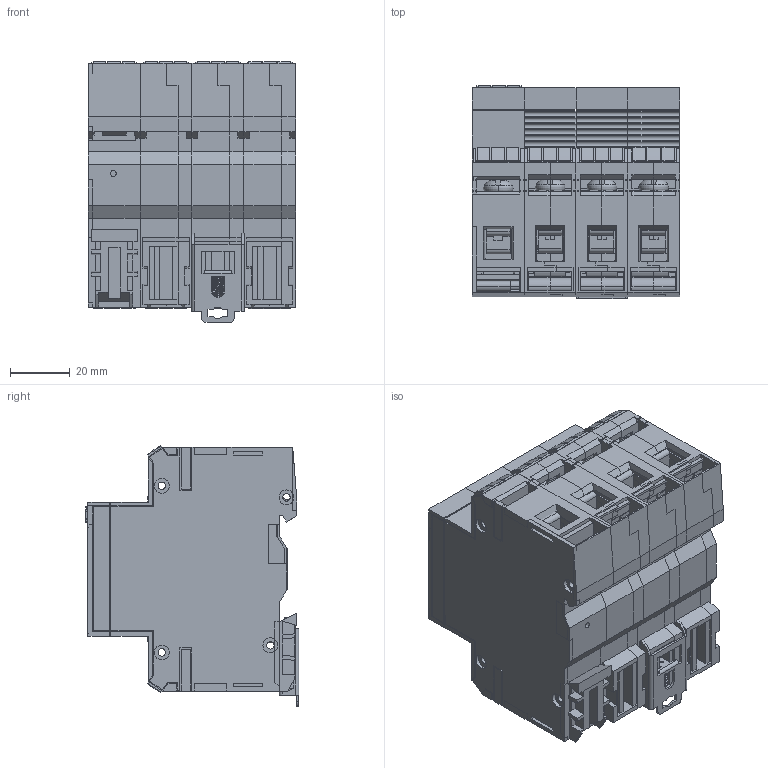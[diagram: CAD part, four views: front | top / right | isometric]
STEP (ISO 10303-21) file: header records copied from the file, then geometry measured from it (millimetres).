
FILE_DESCRIPTION (( 'STEP AP214' ), '1' );
FILE_NAME ('OptiIDn OM 3 瀁錌黟 + OMu.STEP', '2022-12-06T11:36:06', ( '' ), ( '' ), 'SwSTEP 2.0', 'SolidWorks 2018', '' );
FILE_SCHEMA (( 'AUTOMOTIVE_DESIGN' ));
Length unit declared in the file: millimetre
Products named in the file (27): ÎÌu ïóñòîé_„«ï á¡®àª¨; Çàãëóøêà ìîäóëÿ Ï 50-083; 鎔艜 03-024; Âñòàâêà êîäèðîâî÷íàÿ 50-082; Îñíîâàíèå ìîäóëÿ Ï 50-095 ïóñòîé; ﾂ鏆鮏 01; Ñüåìíûé ìîäóëü 01 ïóñòîé; Ïåðåìû÷êà 03-027; Êîðïóñ ëåâûé ïóñòîé; Âûâîä 53-027 îáðåçàíûé äëÿ ñàéòà; 扻豵鵨 01 瀀嚦鍣; Ìåòêà 21-086; Ïðóæèíà çàùåëêè 13-007; Çàãëóøêà ìîäóëÿ Ë 50-084; Êîëîäêà 03-039 ïîä íîâûé ãàáàðèòû; OptiIDn OM 3 瀁錌黟 + OMu; Îñíîâàíèå ìîäóëÿ Ë 50-094(ïóñòîé ñ èçìåíåíûì ãàáàðèòîì)_„«ï ç¥àâ¥¦ ; Êîäèðîâî÷íàÿ âñòàâêà; ﾈ淸韭瑣ⅱ 01; 署赅 01 矬耱铋; Çàùåëêà 11-010; 砑僔蠂縺 52-040_K3; 暑痫篑 镳噔 矬耱铋
Assembly tree (66 placements, depth 3):
  OptiIDn OM 3 瀁錌黟 + OMu
    Îñíîâàíèå ìîäóëÿ Ë 50-094(ïóñòîé ñ èçìåíåíûì ãàáàðèòîì)_„«ï ç¥àâ¥¦ 
    Îñíîâàíèå ìîäóëÿ Ï 50-095 ïóñòîé
    Âûâîä 53-027 îáðåçàíûé äëÿ ñàéòà  x6
    Çàãëóøêà ìîäóëÿ Ë 50-084  x3
    Êîëîäêà 03-039 ïîä íîâûé ãàáàðèòû  x6
    Âñòàâêà êîäèðîâî÷íàÿ 50-082  x3
    鎔艜 03-024  x6
    砑僔蠂縺 52-040_K3
    Ìåòêà 21-086  x6
    Ñüåìíûé ìîäóëü 01 ïóñòîé  x3
      扻豵鵨 01 瀀嚦鍣
      署赅 01 矬耱铋
      Êîäèðîâî÷íàÿ âñòàâêà
      ﾂ鏆鮏 01
      Ìåòêà 21-086
    Îñíîâàíèå ìîäóëÿ Ï 50-095 ïóñòîé
    Îñíîâàíèå ìîäóëÿ Ï 50-095 ïóñòîé
    Îñíîâàíèå ìîäóëÿ Ë 50-094(ïóñòîé ñ èçìåíåíûì ãàáàðèòîì)_„«ï ç¥àâ¥¦ 
    Îñíîâàíèå ìîäóëÿ Ë 50-094(ïóñòîé ñ èçìåíåíûì ãàáàðèòîì)_„«ï ç¥àâ¥¦ 
    Çàãëóøêà ìîäóëÿ Ï 50-083  x2
    Ïðóæèíà çàùåëêè 13-007
    Çàùåëêà 11-010
    Ïåðåìû÷êà 03-027
    ÎÌu ïóñòîé_„«ï á¡®àª¨
      Êîðïóñ ëåâûé ïóñòîé
      ﾈ淸韭瑣ⅱ 01
      暑痫篑 镳噔 矬耱铋
      Çàãëóøêà ìîäóëÿ Ë 50-084
      Çàãëóøêà ìîäóëÿ Ï 50-083
      Ìåòêà 21-086  x3
      Âûâîä 53-027 îáðåçàíûé äëÿ ñàéòà  x2
      鎔艜 03-024  x2
      Êîëîäêà 03-039 ïîä íîâûé ãàáàðèòû  x2
Bounding box: 69.8 x 71.68 x 87.56 mm (x, y, z)
Volume: 156445.2 mm3; surface area: 193318.6 mm2
Topology: 74 solids, 74 shells, 7315 faces, 20359 edges, 13261 vertices
Faces by surface type: plane 5915, cylinder 1346, torus 32, bspline 20, cone 2
Entity records: 120809 total; most frequent: CARTESIAN_POINT 23458, ORIENTED_EDGE 20698, DIRECTION 18900, EDGE_CURVE 10349, VECTOR 9090, LINE 9090, VERTEX_POINT 6793, AXIS2_PLACEMENT_3D 4905
